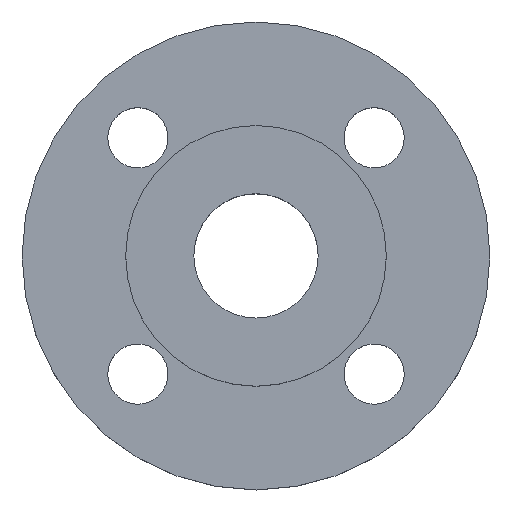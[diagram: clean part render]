
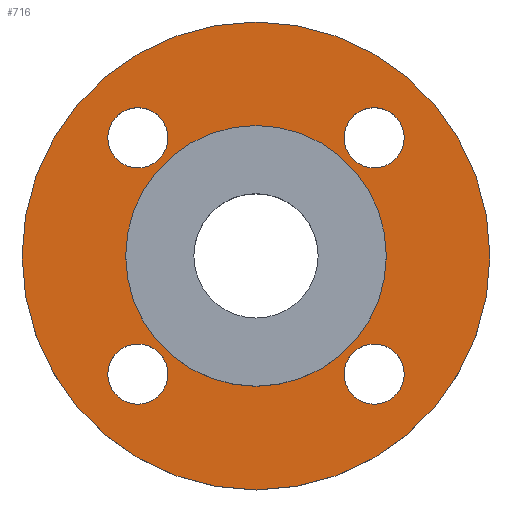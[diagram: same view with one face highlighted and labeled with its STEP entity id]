
A CAD part, top view. The second image highlights one B-rep face of the part: STEP entity #716.
In plain terms, the highlighted planar face has unit normal (0, 0, 1).
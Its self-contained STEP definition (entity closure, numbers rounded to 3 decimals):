
#17 = DIRECTION ( 'NONE',  ( 0., 0., -1. ) ) ;
#21 = EDGE_CURVE ( 'NONE', #544, #198, #729, .T. ) ;
#23 = AXIS2_PLACEMENT_3D ( 'NONE', #887, #246, #534 ) ;
#25 = CIRCLE ( 'NONE', #535, 34.5 ) ;
#35 = CARTESIAN_POINT ( 'NONE',  ( 26.355, -35.355, 0. ) ) ;
#44 = DIRECTION ( 'NONE',  ( 0., 0., -1. ) ) ;
#53 = CARTESIAN_POINT ( 'NONE',  ( 0., 0., 0. ) ) ;
#70 = AXIS2_PLACEMENT_3D ( 'NONE', #496, #784, #146 ) ;
#71 = VERTEX_POINT ( 'NONE', #35 ) ;
#73 = ORIENTED_EDGE ( 'NONE', *, *, #386, .T. ) ;
#75 = CARTESIAN_POINT ( 'NONE',  ( 0., 0., 0. ) ) ;
#78 = EDGE_CURVE ( 'NONE', #274, #184, #270, .T. ) ;
#82 = DIRECTION ( 'NONE',  ( 0., 0., -1. ) ) ;
#86 = DIRECTION ( 'NONE',  ( 1., 0., 0. ) ) ;
#95 = CARTESIAN_POINT ( 'NONE',  ( -34.5, 0., 0. ) ) ;
#105 = DIRECTION ( 'NONE',  ( 0., 0., 1. ) ) ;
#113 = CARTESIAN_POINT ( 'NONE',  ( 70., 0., 0. ) ) ;
#138 = EDGE_LOOP ( 'NONE', ( #268, #467 ) ) ;
#146 = DIRECTION ( 'NONE',  ( -1., 0., 0. ) ) ;
#150 = PLANE ( 'NONE',  #510 ) ;
#154 = CARTESIAN_POINT ( 'NONE',  ( -70., 0., 0. ) ) ;
#165 = VERTEX_POINT ( 'NONE', #95 ) ;
#180 = AXIS2_PLACEMENT_3D ( 'NONE', #715, #82, #361 ) ;
#184 = VERTEX_POINT ( 'NONE', #617 ) ;
#185 = ORIENTED_EDGE ( 'NONE', *, *, #512, .T. ) ;
#189 = EDGE_CURVE ( 'NONE', #735, #71, #326, .T. ) ;
#198 = VERTEX_POINT ( 'NONE', #839 ) ;
#199 = CARTESIAN_POINT ( 'NONE',  ( 0., 0., 0. ) ) ;
#205 = VERTEX_POINT ( 'NONE', #415 ) ;
#211 = CARTESIAN_POINT ( 'NONE',  ( -44.355, 35.355, 0. ) ) ;
#213 = DIRECTION ( 'NONE',  ( -1., 0., 0. ) ) ;
#215 = DIRECTION ( 'NONE',  ( 0., 0., -1. ) ) ;
#217 = FACE_BOUND ( 'NONE', #490, .T. ) ;
#221 = ORIENTED_EDGE ( 'NONE', *, *, #532, .T. ) ;
#229 = ORIENTED_EDGE ( 'NONE', *, *, #21, .T. ) ;
#236 = CARTESIAN_POINT ( 'NONE',  ( -35.355, -35.355, 0. ) ) ;
#246 = DIRECTION ( 'NONE',  ( 0., 0., -1. ) ) ;
#250 = CIRCLE ( 'NONE', #776, 9. ) ;
#267 = DIRECTION ( 'NONE',  ( 0., 0., -1. ) ) ;
#268 = ORIENTED_EDGE ( 'NONE', *, *, #189, .T. ) ;
#270 = CIRCLE ( 'NONE', #790, 9. ) ;
#274 = VERTEX_POINT ( 'NONE', #463 ) ;
#279 = ORIENTED_EDGE ( 'NONE', *, *, #370, .T. ) ;
#282 = VERTEX_POINT ( 'NONE', #113 ) ;
#289 = DIRECTION ( 'NONE',  ( -1., 0., 0. ) ) ;
#291 = FACE_BOUND ( 'NONE', #138, .T. ) ;
#299 = AXIS2_PLACEMENT_3D ( 'NONE', #642, #17, #289 ) ;
#310 = EDGE_LOOP ( 'NONE', ( #428, #739 ) ) ;
#317 = EDGE_CURVE ( 'NONE', #419, #165, #25, .T. ) ;
#319 = DIRECTION ( 'NONE',  ( -1., 0., 0. ) ) ;
#326 = CIRCLE ( 'NONE', #443, 9. ) ;
#330 = DIRECTION ( 'NONE',  ( 0., 0., -1. ) ) ;
#344 = CIRCLE ( 'NONE', #867, 34.5 ) ;
#361 = DIRECTION ( 'NONE',  ( -1., 0., 0. ) ) ;
#368 = EDGE_CURVE ( 'NONE', #165, #419, #344, .T. ) ;
#370 = EDGE_CURVE ( 'NONE', #692, #205, #462, .T. ) ;
#372 = CIRCLE ( 'NONE', #23, 9. ) ;
#386 = EDGE_CURVE ( 'NONE', #198, #544, #583, .T. ) ;
#390 = DIRECTION ( 'NONE',  ( 1., 0., 0. ) ) ;
#393 = ORIENTED_EDGE ( 'NONE', *, *, #317, .T. ) ;
#398 = EDGE_CURVE ( 'NONE', #71, #735, #699, .T. ) ;
#415 = CARTESIAN_POINT ( 'NONE',  ( -26.355, 35.355, 0. ) ) ;
#417 = ORIENTED_EDGE ( 'NONE', *, *, #368, .T. ) ;
#419 = VERTEX_POINT ( 'NONE', #862 ) ;
#428 = ORIENTED_EDGE ( 'NONE', *, *, #78, .T. ) ;
#437 = CARTESIAN_POINT ( 'NONE',  ( 0., 0., 0. ) ) ;
#443 = AXIS2_PLACEMENT_3D ( 'NONE', #908, #267, #552 ) ;
#451 = VERTEX_POINT ( 'NONE', #154 ) ;
#462 = CIRCLE ( 'NONE', #70, 9. ) ;
#463 = CARTESIAN_POINT ( 'NONE',  ( -26.355, -35.355, 0. ) ) ;
#467 = ORIENTED_EDGE ( 'NONE', *, *, #398, .T. ) ;
#482 = EDGE_LOOP ( 'NONE', ( #909, #185 ) ) ;
#483 = DIRECTION ( 'NONE',  ( 0., 0., 1. ) ) ;
#490 = EDGE_LOOP ( 'NONE', ( #73, #229 ) ) ;
#496 = CARTESIAN_POINT ( 'NONE',  ( -35.355, 35.355, 0. ) ) ;
#498 = DIRECTION ( 'NONE',  ( -1., 0., 0. ) ) ;
#500 = FACE_BOUND ( 'NONE', #873, .T. ) ;
#510 = AXIS2_PLACEMENT_3D ( 'NONE', #437, #719, #86 ) ;
#512 = EDGE_CURVE ( 'NONE', #451, #282, #536, .T. ) ;
#522 = DIRECTION ( 'NONE',  ( 0., 0., -1. ) ) ;
#532 = EDGE_CURVE ( 'NONE', #205, #692, #250, .T. ) ;
#534 = DIRECTION ( 'NONE',  ( -1., 0., 0. ) ) ;
#535 = AXIS2_PLACEMENT_3D ( 'NONE', #53, #330, #610 ) ;
#536 = CIRCLE ( 'NONE', #650, 70. ) ;
#544 = VERTEX_POINT ( 'NONE', #600 ) ;
#552 = DIRECTION ( 'NONE',  ( -1., 0., 0. ) ) ;
#562 = EDGE_CURVE ( 'NONE', #184, #274, #372, .T. ) ;
#577 = FACE_BOUND ( 'NONE', #310, .T. ) ;
#583 = CIRCLE ( 'NONE', #180, 9. ) ;
#595 = EDGE_LOOP ( 'NONE', ( #221, #279 ) ) ;
#600 = CARTESIAN_POINT ( 'NONE',  ( 26.355, 35.355, 0. ) ) ;
#610 = DIRECTION ( 'NONE',  ( -1., 0., 0. ) ) ;
#617 = CARTESIAN_POINT ( 'NONE',  ( -44.355, -35.355, 0. ) ) ;
#630 = EDGE_CURVE ( 'NONE', #282, #451, #640, .T. ) ;
#640 = CIRCLE ( 'NONE', #760, 70. ) ;
#642 = CARTESIAN_POINT ( 'NONE',  ( 35.355, -35.355, 0. ) ) ;
#650 = AXIS2_PLACEMENT_3D ( 'NONE', #741, #105, #390 ) ;
#669 = CARTESIAN_POINT ( 'NONE',  ( -35.355, 35.355, 0. ) ) ;
#692 = VERTEX_POINT ( 'NONE', #211 ) ;
#699 = CIRCLE ( 'NONE', #299, 9. ) ;
#715 = CARTESIAN_POINT ( 'NONE',  ( 35.355, 35.355, 0. ) ) ;
#716 = ADVANCED_FACE ( 'NONE', ( #291, #577, #863, #217, #500, #789 ), #150, .T. ) ;
#719 = DIRECTION ( 'NONE',  ( 0., 0., 1. ) ) ;
#729 = CIRCLE ( 'NONE', #895, 9. ) ;
#735 = VERTEX_POINT ( 'NONE', #793 ) ;
#739 = ORIENTED_EDGE ( 'NONE', *, *, #562, .T. ) ;
#741 = CARTESIAN_POINT ( 'NONE',  ( 0., 0., 0. ) ) ;
#760 = AXIS2_PLACEMENT_3D ( 'NONE', #199, #483, #767 ) ;
#767 = DIRECTION ( 'NONE',  ( 1., 0., 0. ) ) ;
#776 = AXIS2_PLACEMENT_3D ( 'NONE', #669, #44, #319 ) ;
#784 = DIRECTION ( 'NONE',  ( 0., 0., -1. ) ) ;
#789 = FACE_OUTER_BOUND ( 'NONE', #482, .T. ) ;
#790 = AXIS2_PLACEMENT_3D ( 'NONE', #236, #522, #811 ) ;
#793 = CARTESIAN_POINT ( 'NONE',  ( 44.355, -35.355, 0. ) ) ;
#811 = DIRECTION ( 'NONE',  ( -1., 0., 0. ) ) ;
#839 = CARTESIAN_POINT ( 'NONE',  ( 44.355, 35.355, 0. ) ) ;
#859 = DIRECTION ( 'NONE',  ( 0., 0., -1. ) ) ;
#861 = CARTESIAN_POINT ( 'NONE',  ( 35.355, 35.355, 0. ) ) ;
#862 = CARTESIAN_POINT ( 'NONE',  ( 34.5, 0., 0. ) ) ;
#863 = FACE_BOUND ( 'NONE', #595, .T. ) ;
#867 = AXIS2_PLACEMENT_3D ( 'NONE', #75, #859, #213 ) ;
#873 = EDGE_LOOP ( 'NONE', ( #393, #417 ) ) ;
#887 = CARTESIAN_POINT ( 'NONE',  ( -35.355, -35.355, 0. ) ) ;
#895 = AXIS2_PLACEMENT_3D ( 'NONE', #861, #215, #498 ) ;
#908 = CARTESIAN_POINT ( 'NONE',  ( 35.355, -35.355, 0. ) ) ;
#909 = ORIENTED_EDGE ( 'NONE', *, *, #630, .T. ) ;
